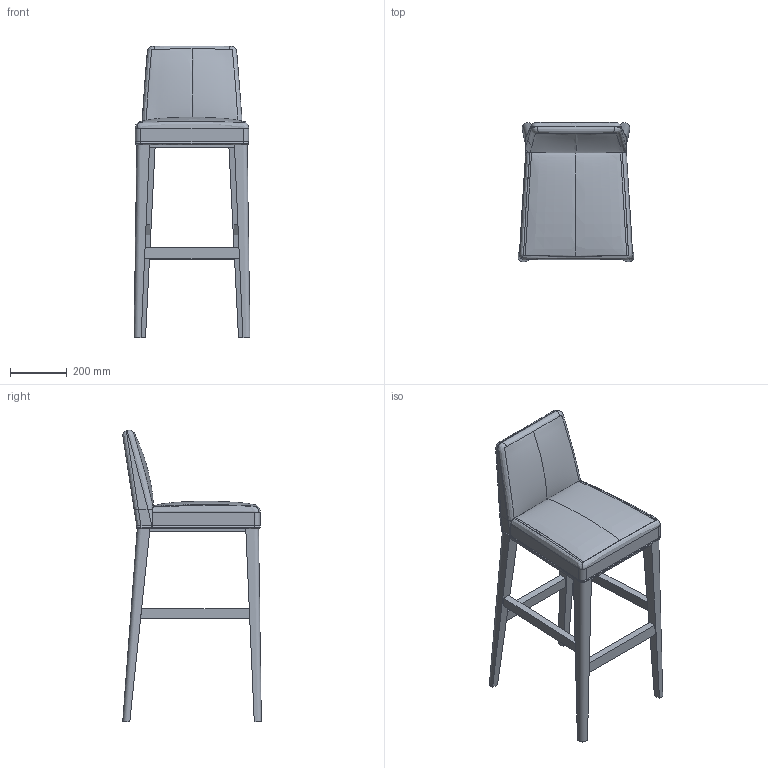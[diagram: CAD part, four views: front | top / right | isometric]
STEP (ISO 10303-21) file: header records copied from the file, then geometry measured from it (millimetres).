
FILE_DESCRIPTION(/* description */ (''),/* implementation_level */ '2;1');
FILE_NAME(/* name */ 'kinoshita_abord_w007s',/* time_stamp */ '2024-09-03T13:19:38+09:00',/* author */ (''),/* organization */ (''),/* preprocessor_version */ 'ST-DEVELOPER v16.5',/* originating_system */ '',/* authorisation */ '');
FILE_SCHEMA (('AUTOMOTIVE_DESIGN'));
Length unit declared in the file: millimetre
Products named in the file (1): Document
Bounding box: 410 x 490.13 x 1032.13 mm (x, y, z)
Volume: 5537921.4 mm3; surface area: 1402583.7 mm2
Topology: 2 solids, 4 shells, 119 faces, 301 edges, 184 vertices
Faces by surface type: bspline 67, plane 52
Entity records: 37419 total; most frequent: CARTESIAN_POINT 35504, ORIENTED_EDGE 585, EDGE_CURVE 301, B_SPLINE_CURVE_WITH_KNOTS 240, VERTEX_POINT 184, EDGE_LOOP 127, ADVANCED_FACE 119, FACE_OUTER_BOUND 119
